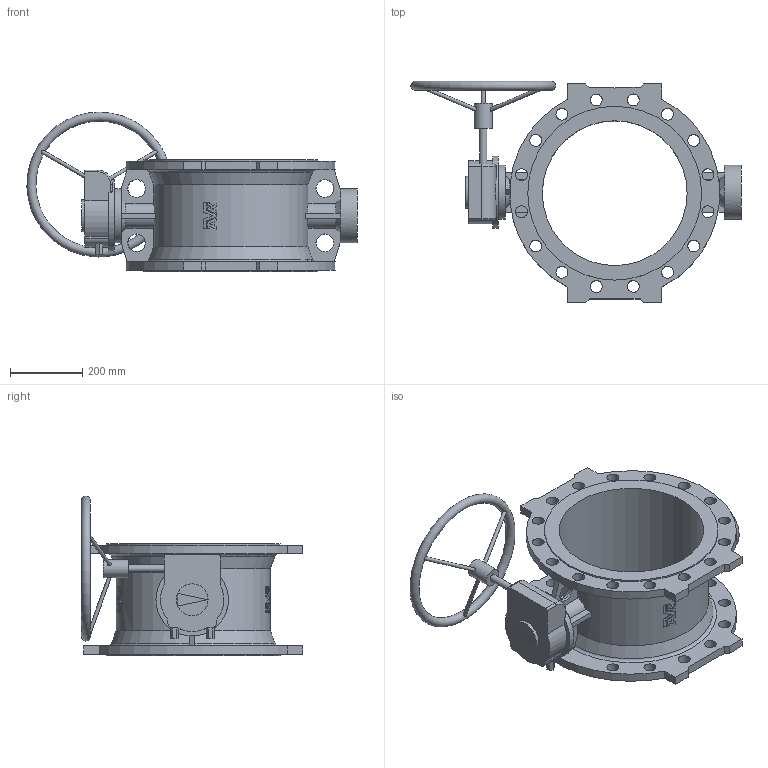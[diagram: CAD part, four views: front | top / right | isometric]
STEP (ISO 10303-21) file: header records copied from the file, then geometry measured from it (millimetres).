
FILE_DESCRIPTION (( 'STEP AP203' ), '1' );
FILE_NAME ('O_756_1_DN400_1XX00_AA0_step.step', '2016-03-04T11:43:12', ( 'Windows User' ), ( 'AVK' ), 'SwSTEP 2.0', 'SolidWorks 2012', '' );
FILE_SCHEMA (( 'CONFIG_CONTROL_DESIGN' ));
Length unit declared in the file: millimetre
Products named in the file (1): O_756_1_DN400_1XX00_AA0_step
Bounding box: 911.85 x 610.99 x 441 mm (x, y, z)
Volume: 17865711.7 mm3; surface area: 1785912.4 mm2
Topology: 1 solids, 1 shells, 354 faces, 1028 edges, 693 vertices
Faces by surface type: plane 173, bspline 78, cylinder 76, cone 20, torus 7
Full cylindrical faces by diameter (mm): 10 x3, 20 x1, 33 x31, 50 x1, 88 x1, 150 x2, 200 x1, 400 x1, 480 x2
Entity records: 15988 total; most frequent: CARTESIAN_POINT 7457, ORIENTED_EDGE 1880, DIRECTION 1399, EDGE_CURVE 940, VERTEX_POINT 657, EDGE_LOOP 499, VECTOR 481, LINE 481
